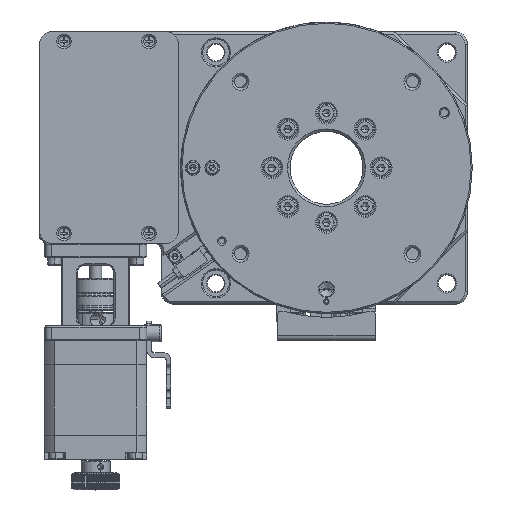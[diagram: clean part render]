
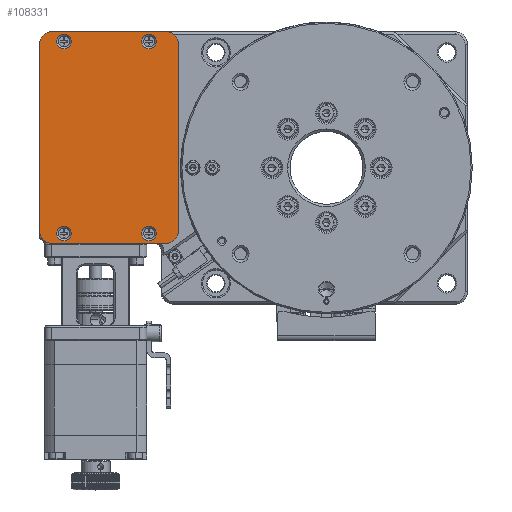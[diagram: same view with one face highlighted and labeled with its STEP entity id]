
A CAD part, top view. The second image highlights one B-rep face of the part: STEP entity #108331.
In plain terms, the highlighted planar face has unit normal (0, 0, 1).
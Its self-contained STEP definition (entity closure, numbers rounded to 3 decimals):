
#271 = CIRCLE ( 'NONE', #100354, 3. ) ;
#815 = CARTESIAN_POINT ( 'NONE',  ( -55., 25., 42. ) ) ;
#1221 = DIRECTION ( 'NONE',  ( 0., -1., 0. ) ) ;
#1714 = DIRECTION ( 'NONE',  ( 0., 1., 0. ) ) ;
#3010 = VECTOR ( 'NONE', #64658, 1000. ) ;
#5586 = EDGE_CURVE ( 'NONE', #101118, #78199, #271, .T. ) ;
#5974 = ORIENTED_EDGE ( 'NONE', *, *, #81776, .T. ) ;
#6322 = CARTESIAN_POINT ( 'NONE',  ( -15., 26., 42. ) ) ;
#6373 = AXIS2_PLACEMENT_3D ( 'NONE', #15953, #100365, #6792 ) ;
#6792 = DIRECTION ( 'NONE',  ( 0., 1., 0. ) ) ;
#8225 = EDGE_CURVE ( 'NONE', #78199, #101118, #57879, .T. ) ;
#8698 = DIRECTION ( 'NONE',  ( 0., -1., 0. ) ) ;
#8839 = EDGE_CURVE ( 'NONE', #78221, #13992, #82662, .T. ) ;
#8957 = CARTESIAN_POINT ( 'NONE',  ( -50., 32., 42. ) ) ;
#9866 = EDGE_LOOP ( 'NONE', ( #28883, #85471 ) ) ;
#10709 = EDGE_CURVE ( 'NONE', #45228, #52148, #30234, .T. ) ;
#10768 = DIRECTION ( 'NONE',  ( 0., 0., -1. ) ) ;
#10868 = DIRECTION ( 'NONE',  ( 0., 0., -1. ) ) ;
#12029 = CARTESIAN_POINT ( 'NONE',  ( -15., 29., 42. ) ) ;
#13799 = AXIS2_PLACEMENT_3D ( 'NONE', #71032, #55026, #37445 ) ;
#13992 = VERTEX_POINT ( 'NONE', #26139 ) ;
#15147 = ORIENTED_EDGE ( 'NONE', *, *, #8225, .T. ) ;
#15315 = VERTEX_POINT ( 'NONE', #38517 ) ;
#15478 = ORIENTED_EDGE ( 'NONE', *, *, #105026, .F. ) ;
#15492 = FACE_BOUND ( 'NONE', #91580, .T. ) ;
#15619 = VERTEX_POINT ( 'NONE', #815 ) ;
#15953 = CARTESIAN_POINT ( 'NONE',  ( -55., 107., 42. ) ) ;
#16564 = CARTESIAN_POINT ( 'NONE',  ( -8., 25., 42. ) ) ;
#16682 = CARTESIAN_POINT ( 'NONE',  ( -15., 32., 42. ) ) ;
#18343 = DIRECTION ( 'NONE',  ( 0., 0., -1. ) ) ;
#18413 = CARTESIAN_POINT ( 'NONE',  ( -50., 105., 42. ) ) ;
#18526 = LINE ( 'NONE', #53195, #54526 ) ;
#18740 = LINE ( 'NONE', #107074, #46459 ) ;
#19504 = DIRECTION ( 'NONE',  ( 0., 0., -1. ) ) ;
#24320 = ORIENTED_EDGE ( 'NONE', *, *, #8839, .T. ) ;
#25150 = FACE_BOUND ( 'NONE', #86134, .T. ) ;
#25733 = FACE_BOUND ( 'NONE', #48090, .T. ) ;
#26139 = CARTESIAN_POINT ( 'NONE',  ( -8., 112., 42. ) ) ;
#26646 = DIRECTION ( 'NONE',  ( 0., -1., 0. ) ) ;
#26936 = CARTESIAN_POINT ( 'NONE',  ( -50., 108., 42. ) ) ;
#28571 = CARTESIAN_POINT ( 'NONE',  ( -15., 108., 42. ) ) ;
#28883 = ORIENTED_EDGE ( 'NONE', *, *, #10709, .T. ) ;
#30234 = CIRCLE ( 'NONE', #13799, 3. ) ;
#30803 = EDGE_LOOP ( 'NONE', ( #41604, #104237, #105701, #24320, #15478, #5974, #32363, #59033 ) ) ;
#31010 = VERTEX_POINT ( 'NONE', #77600 ) ;
#31118 = AXIS2_PLACEMENT_3D ( 'NONE', #26936, #61628, #53054 ) ;
#32143 = EDGE_CURVE ( 'NONE', #15315, #77439, #82646, .T. ) ;
#32363 = ORIENTED_EDGE ( 'NONE', *, *, #93934, .F. ) ;
#33636 = AXIS2_PLACEMENT_3D ( 'NONE', #91317, #102176, #58797 ) ;
#34287 = FACE_OUTER_BOUND ( 'NONE', #30803, .T. ) ;
#37445 = DIRECTION ( 'NONE',  ( 0., -1., 0. ) ) ;
#38101 = DIRECTION ( 'NONE',  ( 0., -1., 0. ) ) ;
#38517 = CARTESIAN_POINT ( 'NONE',  ( -50., 26., 42. ) ) ;
#40301 = ORIENTED_EDGE ( 'NONE', *, *, #5586, .T. ) ;
#41013 = CIRCLE ( 'NONE', #6373, 5. ) ;
#41604 = ORIENTED_EDGE ( 'NONE', *, *, #81145, .F. ) ;
#41938 = ORIENTED_EDGE ( 'NONE', *, *, #76423, .T. ) ;
#42219 = LINE ( 'NONE', #103748, #55875 ) ;
#42692 = ORIENTED_EDGE ( 'NONE', *, *, #44263, .T. ) ;
#43920 = EDGE_CURVE ( 'NONE', #78221, #109017, #18526, .T. ) ;
#44222 = EDGE_CURVE ( 'NONE', #89516, #31010, #69283, .T. ) ;
#44263 = EDGE_CURVE ( 'NONE', #31010, #89516, #60155, .T. ) ;
#44497 = CARTESIAN_POINT ( 'NONE',  ( -31.5, 68.5, 42. ) ) ;
#45228 = VERTEX_POINT ( 'NONE', #107159 ) ;
#45612 = CARTESIAN_POINT ( 'NONE',  ( -50., 29., 42. ) ) ;
#46186 = AXIS2_PLACEMENT_3D ( 'NONE', #110156, #66802, #86684 ) ;
#46459 = VECTOR ( 'NONE', #64242, 1000. ) ;
#47287 = CARTESIAN_POINT ( 'NONE',  ( -15., 105., 42. ) ) ;
#48090 = EDGE_LOOP ( 'NONE', ( #41938, #72184 ) ) ;
#48118 = LINE ( 'NONE', #72657, #3010 ) ;
#49119 = CIRCLE ( 'NONE', #56421, 5. ) ;
#49715 = VERTEX_POINT ( 'NONE', #70651 ) ;
#50899 = ORIENTED_EDGE ( 'NONE', *, *, #44222, .T. ) ;
#51256 = DIRECTION ( 'NONE',  ( 1., 0., 0. ) ) ;
#51655 = CARTESIAN_POINT ( 'NONE',  ( -15., 29., 42. ) ) ;
#52013 = VERTEX_POINT ( 'NONE', #87195 ) ;
#52148 = VERTEX_POINT ( 'NONE', #47287 ) ;
#53054 = DIRECTION ( 'NONE',  ( 0., -1., 0. ) ) ;
#53195 = CARTESIAN_POINT ( 'NONE',  ( -3., 68.5, 42. ) ) ;
#54111 = DIRECTION ( 'NONE',  ( 0., 0., -1. ) ) ;
#54526 = VECTOR ( 'NONE', #62891, 1000. ) ;
#55026 = DIRECTION ( 'NONE',  ( 0., 0., -1. ) ) ;
#55240 = CIRCLE ( 'NONE', #46186, 5. ) ;
#55829 = CARTESIAN_POINT ( 'NONE',  ( -3., 107., 42. ) ) ;
#55875 = VECTOR ( 'NONE', #51256, 1000. ) ;
#56421 = AXIS2_PLACEMENT_3D ( 'NONE', #65686, #108478, #73119 ) ;
#57879 = CIRCLE ( 'NONE', #59678, 3. ) ;
#58797 = DIRECTION ( 'NONE',  ( 0., 1., 0. ) ) ;
#59033 = ORIENTED_EDGE ( 'NONE', *, *, #59129, .T. ) ;
#59129 = EDGE_CURVE ( 'NONE', #49715, #15619, #55240, .T. ) ;
#59678 = AXIS2_PLACEMENT_3D ( 'NONE', #12029, #18343, #1221 ) ;
#60155 = CIRCLE ( 'NONE', #31118, 3. ) ;
#60736 = AXIS2_PLACEMENT_3D ( 'NONE', #44497, #79168, #1714 ) ;
#61628 = DIRECTION ( 'NONE',  ( 0., 0., -1. ) ) ;
#62079 = DIRECTION ( 'NONE',  ( 0., -1., 0. ) ) ;
#62891 = DIRECTION ( 'NONE',  ( 0., -1., 0. ) ) ;
#64242 = DIRECTION ( 'NONE',  ( -1., 0., 0. ) ) ;
#64658 = DIRECTION ( 'NONE',  ( 0., 1., 0. ) ) ;
#64757 = EDGE_CURVE ( 'NONE', #52148, #45228, #103263, .T. ) ;
#65686 = CARTESIAN_POINT ( 'NONE',  ( -8., 30., 42. ) ) ;
#66802 = DIRECTION ( 'NONE',  ( 0., 0., 1. ) ) ;
#67830 = PLANE ( 'NONE',  #60736 ) ;
#67870 = CARTESIAN_POINT ( 'NONE',  ( -55., 112., 42. ) ) ;
#69283 = CIRCLE ( 'NONE', #74684, 3. ) ;
#70651 = CARTESIAN_POINT ( 'NONE',  ( -60., 30., 42. ) ) ;
#71032 = CARTESIAN_POINT ( 'NONE',  ( -15., 108., 42. ) ) ;
#72184 = ORIENTED_EDGE ( 'NONE', *, *, #32143, .T. ) ;
#72657 = CARTESIAN_POINT ( 'NONE',  ( -60., 68.5, 42. ) ) ;
#73119 = DIRECTION ( 'NONE',  ( 0., 1., 0. ) ) ;
#74684 = AXIS2_PLACEMENT_3D ( 'NONE', #86686, #19504, #8698 ) ;
#75386 = AXIS2_PLACEMENT_3D ( 'NONE', #45612, #10868, #62079 ) ;
#76111 = AXIS2_PLACEMENT_3D ( 'NONE', #87640, #10768, #38101 ) ;
#76423 = EDGE_CURVE ( 'NONE', #77439, #15315, #90689, .T. ) ;
#77439 = VERTEX_POINT ( 'NONE', #8957 ) ;
#77600 = CARTESIAN_POINT ( 'NONE',  ( -50., 111., 42. ) ) ;
#78199 = VERTEX_POINT ( 'NONE', #16682 ) ;
#78221 = VERTEX_POINT ( 'NONE', #55829 ) ;
#79168 = DIRECTION ( 'NONE',  ( 0., 0., 1. ) ) ;
#81145 = EDGE_CURVE ( 'NONE', #102253, #15619, #18740, .T. ) ;
#81776 = EDGE_CURVE ( 'NONE', #94445, #52013, #41013, .T. ) ;
#82646 = CIRCLE ( 'NONE', #75386, 3. ) ;
#82662 = CIRCLE ( 'NONE', #33636, 5. ) ;
#85471 = ORIENTED_EDGE ( 'NONE', *, *, #64757, .T. ) ;
#86134 = EDGE_LOOP ( 'NONE', ( #15147, #40301 ) ) ;
#86684 = DIRECTION ( 'NONE',  ( 0., 1., 0. ) ) ;
#86686 = CARTESIAN_POINT ( 'NONE',  ( -50., 108., 42. ) ) ;
#87195 = CARTESIAN_POINT ( 'NONE',  ( -60., 107., 42. ) ) ;
#87640 = CARTESIAN_POINT ( 'NONE',  ( -50., 29., 42. ) ) ;
#88916 = DIRECTION ( 'NONE',  ( 0., -1., 0. ) ) ;
#89516 = VERTEX_POINT ( 'NONE', #18413 ) ;
#90689 = CIRCLE ( 'NONE', #76111, 3. ) ;
#91317 = CARTESIAN_POINT ( 'NONE',  ( -8., 107., 42. ) ) ;
#91580 = EDGE_LOOP ( 'NONE', ( #42692, #50899 ) ) ;
#93934 = EDGE_CURVE ( 'NONE', #49715, #52013, #48118, .T. ) ;
#94074 = AXIS2_PLACEMENT_3D ( 'NONE', #28571, #54111, #88916 ) ;
#94445 = VERTEX_POINT ( 'NONE', #67870 ) ;
#95547 = DIRECTION ( 'NONE',  ( 0., 0., -1. ) ) ;
#95878 = EDGE_CURVE ( 'NONE', #102253, #109017, #49119, .T. ) ;
#98602 = CARTESIAN_POINT ( 'NONE',  ( -3., 30., 42. ) ) ;
#100354 = AXIS2_PLACEMENT_3D ( 'NONE', #51655, #95547, #26646 ) ;
#100365 = DIRECTION ( 'NONE',  ( 0., 0., 1. ) ) ;
#101118 = VERTEX_POINT ( 'NONE', #6322 ) ;
#102176 = DIRECTION ( 'NONE',  ( 0., 0., 1. ) ) ;
#102253 = VERTEX_POINT ( 'NONE', #16564 ) ;
#103263 = CIRCLE ( 'NONE', #94074, 3. ) ;
#103748 = CARTESIAN_POINT ( 'NONE',  ( -31.5, 112., 42. ) ) ;
#104237 = ORIENTED_EDGE ( 'NONE', *, *, #95878, .T. ) ;
#105026 = EDGE_CURVE ( 'NONE', #94445, #13992, #42219, .T. ) ;
#105701 = ORIENTED_EDGE ( 'NONE', *, *, #43920, .F. ) ;
#107074 = CARTESIAN_POINT ( 'NONE',  ( -31.5, 25., 42. ) ) ;
#107159 = CARTESIAN_POINT ( 'NONE',  ( -15., 111., 42. ) ) ;
#108331 = ADVANCED_FACE ( 'NONE', ( #15492, #111767, #25733, #25150, #34287 ), #67830, .T. ) ;
#108478 = DIRECTION ( 'NONE',  ( 0., 0., 1. ) ) ;
#109017 = VERTEX_POINT ( 'NONE', #98602 ) ;
#110156 = CARTESIAN_POINT ( 'NONE',  ( -55., 30., 42. ) ) ;
#111767 = FACE_BOUND ( 'NONE', #9866, .T. ) ;
